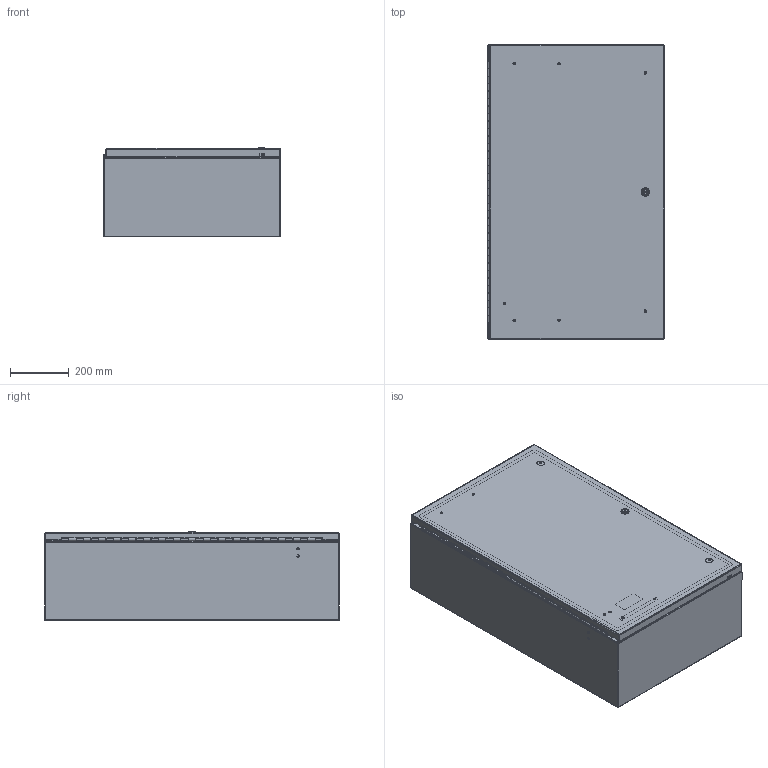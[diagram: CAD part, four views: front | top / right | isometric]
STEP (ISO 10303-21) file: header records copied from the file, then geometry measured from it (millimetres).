
FILE_DESCRIPTION (( 'STEP AP203' ), '1' );
FILE_NAME ('ecl1006030ch.STEP', '2013-09-10T15:29:50', ( 'User' ), ( 'Pentair Inc' ), 'SwSTEP 2.0', 'SolidWorks 2010', '' );
FILE_SCHEMA (( 'CONFIG_CONTROL_DESIGN' ));
Length unit declared in the file: inch
Products named in the file (38): ecl1006030ch; 89051903; 89052984; 87559710; 87554969; 89051882; 87554463; 89051888; 87554467; 87554978_PEM HFHS-M6-15 ---N; 87559860; 89051735; 89051712; 87559678; 87744876_87744876; 87554979_87554979; 99411940_99411940; 89051698; 64138001; 91120001_91120001; 87780048; 87554967_OPEN; 87960059_Default 14 ga; 87956873; 87956874; 31122001_31122001; 99407583; 87956867; 99405181; 87956872; 87956875; 99414303_99414303; 99411839_99411839; 27131001; 87554494; 89051756; 87793415_87793415; 87559869
Assembly tree (55 placements, depth 5):
  ecl1006030ch
    89051903
      87554969  x6
      89051882
        87554978_PEM HFHS-M6-15 ---N  x2
        87554463
      89052984
        87559710
        99411940_99411940
      89051888
        87554467
        87554978_PEM HFHS-M6-15 ---N  x2
      87559860
    89051735
      87554967_OPEN
        87960059_Default 14 ga
          31122001_31122001
          87956874
          87956873
        99407583
          87956872
          87956875
          99405181
          87956867
        99414303_99414303
      99411839_99411839  x2
      27131001  x2
      64138001  x2
      91120001_91120001  x2
      89051712
        87554979_87554979  x4
        87744876_87744876  x2
        87559678
        99411940_99411940
      89051698
      89051756  x2
      87780048
      87554494
    87559869
    87793415_87793415
Bounding box: 600.52 x 1004.06 x 304.23 mm (x, y, z)
Volume: 5402554.2 mm3; surface area: 4892922 mm2
Topology: 52 solids, 64 shells, 2831 faces, 7381 edges, 4742 vertices
Faces by surface type: plane 1410, cylinder 845, cone 311, torus 108, bspline 105, sphere 52
Entity records: 68353 total; most frequent: CARTESIAN_POINT 18015, DIRECTION 9590, ORIENTED_EDGE 9588, EDGE_CURVE 4798, AXIS2_PLACEMENT_3D 3469, VERTEX_POINT 3075, LINE 2652, VECTOR 2652
